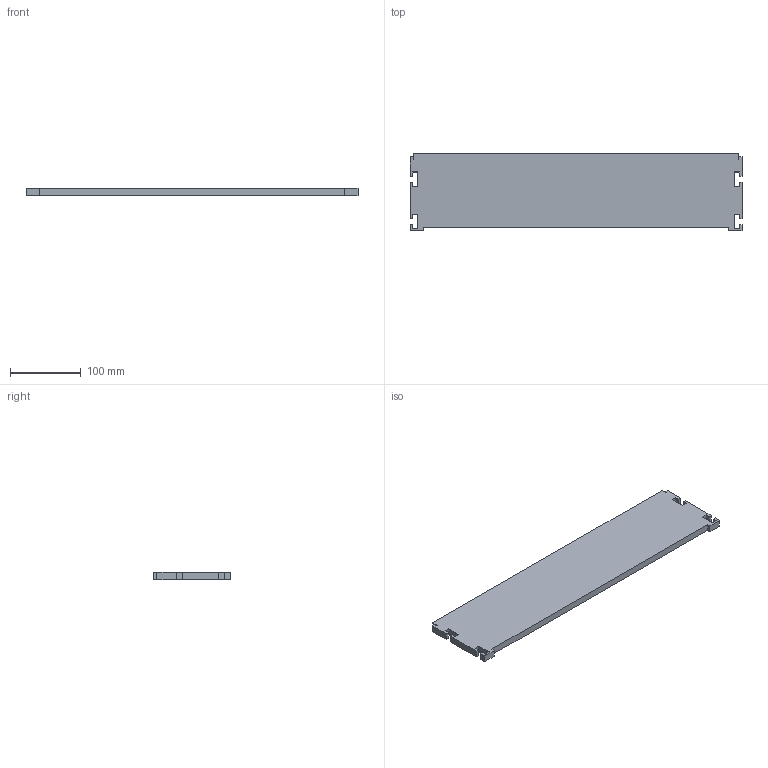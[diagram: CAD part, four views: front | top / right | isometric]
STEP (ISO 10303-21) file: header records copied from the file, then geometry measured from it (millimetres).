
FILE_DESCRIPTION (( 'STEP AP214' ), '1' );
FILE_NAME ('470 baan.STEP', '2017-02-08T12:28:08', ( '' ), ( '' ), 'SwSTEP 2.0', 'SolidWorks 2016', '' );
FILE_SCHEMA (( 'AUTOMOTIVE_DESIGN' ));
Length unit declared in the file: millimetre
Products named in the file (1): 470 baan
Bounding box: 468 x 109 x 10 mm (x, y, z)
Volume: 482615.6 mm3; surface area: 110171.1 mm2
Topology: 1 solids, 1 shells, 54 faces, 156 edges, 104 vertices
Faces by surface type: plane 54
Entity records: 1774 total; most frequent: CARTESIAN_POINT 315, ORIENTED_EDGE 312, DIRECTION 266, VECTOR 156, LINE 156, EDGE_CURVE 156, VERTEX_POINT 104, AXIS2_PLACEMENT_3D 55
